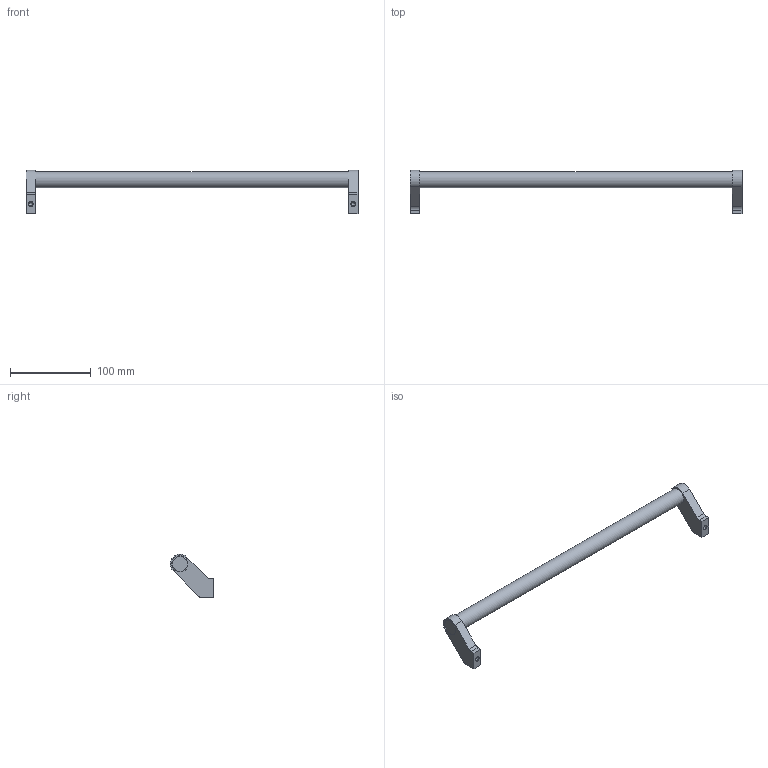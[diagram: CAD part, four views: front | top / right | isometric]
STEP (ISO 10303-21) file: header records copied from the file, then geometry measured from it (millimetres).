
FILE_DESCRIPTION( ( 'STEP AP203' ), '1' );
FILE_NAME( 'C:/Temp/Ganter_Step_05_03_2020/data/1_2/gn333/Tubular handle GN 333-20-400-A-EL.stp', '2020-03-05T10:16:11', ( 'License CC BY-ND 4.0' ), ( 'CADENAS' ), ' ', 'PARTsolutions', ' ' );
FILE_SCHEMA( ( 'CONFIG_CONTROL_DESIGN' ) );
Length unit declared in the file: millimetre
Products named in the file (1): _Tubular handle GN 333-20-400-A-EL
Bounding box: 412 x 53.95 x 53.95 mm (x, y, z)
Volume: 158141.8 mm3; surface area: 34484.3 mm2
Topology: 1 solids, 1 shells, 33 faces, 77 edges, 50 vertices
Faces by surface type: plane 16, cylinder 11, cone 4, torus 2
Full cylindrical faces by diameter (mm): 4.917 x2, 20 x3
Entity records: 906 total; most frequent: DIRECTION 156, CARTESIAN_POINT 144, ORIENTED_EDGE 124, EDGE_CURVE 62, AXIS2_PLACEMENT_3D 60, EDGE_LOOP 48, VERTEX_POINT 48, FACE_OUTER_BOUND 40
